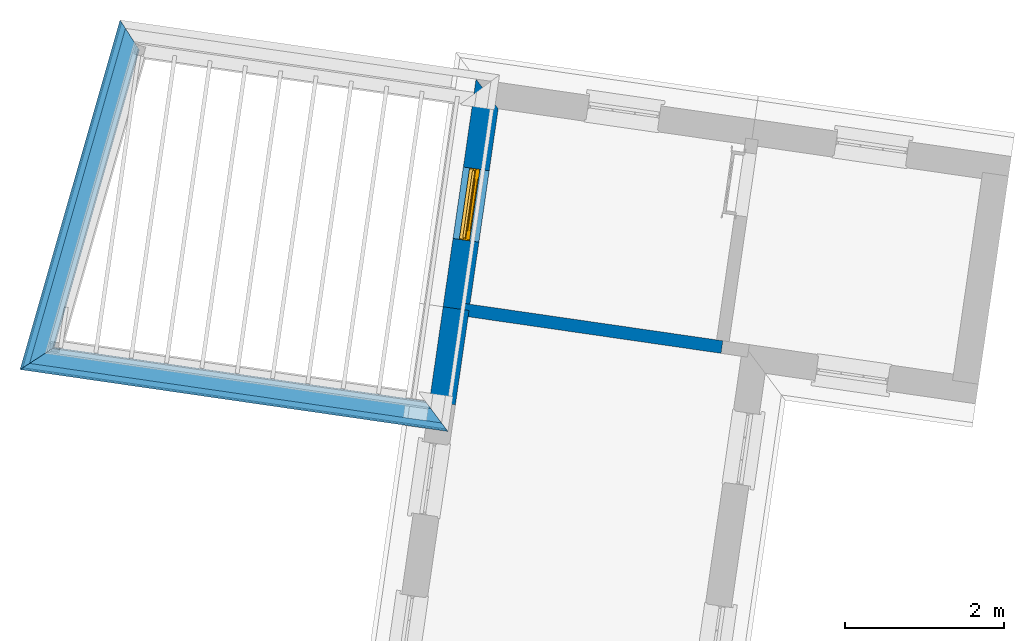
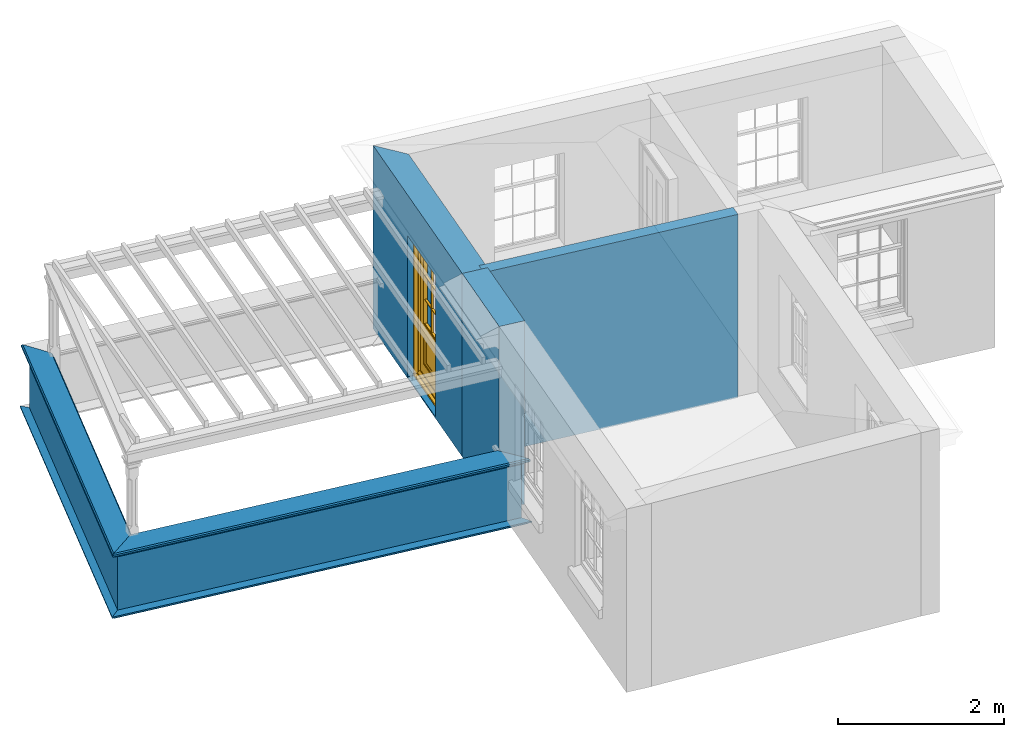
# One storey, part 2 of 4: 9 walls, 1 door, 1 opening.
"""IFC4 building model written with IfcOpenShell, lengths in metres."""

from ifc_helpers import new_model, si_unit, frame, origin, origin_with_axes, place, context, subcontext, project, spatial, polyline, outline, extrude, clip, halfspace, faceted_brep, source, transform, mapped, material, layer, layer_set, layer_usage, material_profile, profile_set, profile_usage, type_object, type_shapes, element, fill, save


model = new_model("IFC4")

# Units and contexts
model_context = context("Model", 3, world=origin_with_axes())
body_context = subcontext(model_context, "Body", "Model", "MODEL_VIEW")
ifc_project = project(units=[si_unit("PLANEANGLEUNIT", "RADIAN"), si_unit("MASSUNIT", "GRAM", prefix="KILO"), si_unit("FORCEUNIT", "NEWTON", prefix="KILO"), si_unit("LENGTHUNIT", "METRE"), si_unit("AREAUNIT", "SQUARE_METRE"), si_unit("VOLUMEUNIT", "CUBIC_METRE")], contexts=[model_context, model_context])

# Sites, building, storey
site_1_placement = place(None, origin_with_axes())
site_1 = spatial("IfcSite", under=ifc_project, at=site_1_placement, Name="Tamar")
site_2_placement = place(site_1_placement, origin_with_axes())
site_2 = spatial("IfcSite", under=site_1, at=site_2_placement, Name="Site plot-30", CompositionType="ELEMENT")
building_placement = place(None, origin_with_axes())
building = spatial("IfcBuilding", under=site_2, at=building_placement, Name="Building plot-30", CompositionType="ELEMENT")
storey_placement = place(None, frame((0.0, 0.0, 31.0), z_axis=(0.0, 0.0, 1.0), x_axis=(1.0, 0.0, 0.0)))
storey = spatial("IfcBuildingStorey", under=building, at=storey_placement, Name="plot-30 2", CompositionType="ELEMENT", Elevation=31.0)

# Wall, opening, door
ifc_material_1 = material(Name="Masonry")
ifc_layer_1 = layer(ifc_material_1, 0.33, ventilated=False)
ifc_layer_set_1 = layer_set([ifc_layer_1], Name="exterior_0.08_0.25")
ifc_layer_usage_1 = layer_usage(ifc_layer_set_1, "AXIS2", "POSITIVE", -0.25)
wall_type_1 = type_object("IfcWallType", Name="exterior_0.08_0.25", PredefinedType="SOLIDWALL", material=ifc_layer_set_1)
wall_1_placement = place(storey_placement, frame((286.383321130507, 263.50148224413, 0.0), z_axis=(0.0, 0.0, 1.0), x_axis=(-0.143119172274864, -0.98970546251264, 0.0)))
wall_1 = element("IfcWall", 1, at=wall_1_placement, inside=storey, type_object=wall_type_1, material=ifc_layer_usage_1, Name="exterior", context=body_context, shape_type="SweptSolid", body=[
    extrude(outline(polyline([(0.0800000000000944, 0.0800000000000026), (-0.250000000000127, -0.249999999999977), (2.64939682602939, -0.249999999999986), (2.64939682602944, 0.0800000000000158), (0.0800000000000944, 0.0800000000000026)])), origin_with_axes(), (0.0, 0.0, 1.0), 2.7),
])
opening_placement = place(wall_1_placement, frame((0.869698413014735, 0.0, 0.0199999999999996)))
opening = element("IfcOpeningElement", 2, at=opening_placement, cuts=wall_1, Name="My Opening", ObjectType="Opening", context=body_context, shape_type="SweptSolid", body=[
    extrude(outline(polyline([(0.0, -0.270000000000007), (0.909999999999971, -0.269999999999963), (0.909999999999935, 1.10000000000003), (-3.59712259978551e-14, 1.09999999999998), (0.0, -0.270000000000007)])), origin_with_axes(), (0.0, 0.0, 1.0), 2.08),
])
door_type = type_object("IfcDoorType", Name="door_panelled", OperationType="SINGLE_SWING_LEFT", PredefinedType="NOTDEFINED")
shared_shape = source(origin(), body_context, "Body", "Brep", [
    faceted_brep([(0.545, 0.195, 0.265), (0.745, 0.195, 0.265), (0.745, 0.2, 0.265), (0.545, 0.2, 0.265), (0.745, 0.2, 0.58), (0.545, 0.2, 0.58), (0.545, 0.195, 0.58), (0.515, 0.19, 0.235), (0.775, 0.19, 0.235), (0.745, 0.195, 0.58), (0.515, 0.19, 0.61), (0.515, 0.185, 0.235), (0.775, 0.185, 0.235), (0.775, 0.19, 0.61), (0.515, 0.185, 0.61), (0.785, 0.185, 0.225), (0.505, 0.185, 0.225), (0.775, 0.185, 0.61), (0.505, 0.185, 0.62), (0.785, 0.185, 0.62), (0.505, 0.18, 0.225), (0.785, 0.18, 0.225), (0.505, 0.18, 0.62), (0.785, 0.18, 0.62), (0.883, 0.18, 0.075), (0.898, 0.18, 0.075), (0.405, 0.18, 0.62), (0.405, 0.18, 0.225), (0.027, 0.18, 0.075), (0.785, 0.18, 0.82), (0.125, 0.18, 0.82), (0.405, 0.185, 0.62), (0.405, 0.185, 0.225), (0.898, 0.18, 2.068), (0.027, 0.17, 0.075), (0.883, 0.17, 0.075), (0.125, 0.18, 0.225), (0.012, 0.18, 0.075), (0.785, 0.19, 0.82), (0.125, 0.19, 0.82), (0.125, 0.18, 0.62), (0.125, 0.185, 0.62), (0.395, 0.185, 0.61), (0.395, 0.185, 0.235), (0.125, 0.185, 0.225), (0.785, 0.18, 1.895), (0.027, 0.14, 0.045), (0.883, 0.14, 0.045), (0.558333, 0.19, 0.83), (0.351667, 0.19, 0.83), (0.125, 0.18, 1.895), (0.125, 0.19, 1.895), (0.785, 0.19, 1.895), (0.012, 0.18, 2.068), (0.135, 0.185, 0.61), (0.395, 0.19, 0.61), (0.395, 0.19, 0.235), (0.135, 0.185, 0.235), (0.027, 0.14, 0.027), (0.883, 0.14, 0.027), (0.568333, 0.19, 0.83), (0.558333, 0.22, 0.83), (0.351667, 0.22, 0.83), (0.341667, 0.19, 0.83), (0.135, 0.19, 1.185), (0.135, 0.19, 1.53), (0.775, 0.19, 1.53), (0.775, 0.19, 1.185), (0.135, 0.19, 0.61), (0.365, 0.195, 0.58), (0.365, 0.195, 0.265), (0.135, 0.19, 0.235), (0.568333, 0.19, 1.175), (0.558333, 0.19, 1.175), (0.775, 0.19, 0.83), (0.558333, 0.22, 1.175), (0.785, 0.22, 0.82), (0.125, 0.22, 0.82), (0.351667, 0.22, 1.175), (0.351667, 0.19, 1.175), (0.341667, 0.19, 1.175), (0.135, 0.19, 0.83), (0.135, 0.19, 1.175), (0.135, 0.22, 1.185), (0.135, 0.22, 1.53), (0.135, 0.19, 1.54), (0.351667, 0.19, 1.885), (0.558333, 0.19, 1.885), (0.775, 0.22, 1.53), (0.775, 0.22, 1.185), (0.775, 0.19, 1.175), (0.775, 0.19, 1.54), (0.165, 0.195, 0.58), (0.365, 0.2, 0.58), (0.365, 0.2, 0.265), (0.165, 0.195, 0.265), (0.568333, 0.22, 0.83), (0.568333, 0.22, 1.175), (0.568333, 0.19, 1.185), (0.558333, 0.19, 1.185), (0.775, 0.22, 0.83), (0.785, 0.23, 0.82), (0.125, 0.23, 0.82), (0.341667, 0.22, 0.83), (0.341667, 0.22, 1.175), (0.351667, 0.19, 1.185), (0.341667, 0.19, 1.185), (0.135, 0.22, 0.83), (0.341667, 0.22, 1.185), (0.125, 0.22, 1.895), (0.341667, 0.22, 1.53), (0.341667, 0.19, 1.53), (0.135, 0.19, 1.885), (0.341667, 0.19, 1.54), (0.341667, 0.19, 1.885), (0.558333, 0.22, 1.885), (0.351667, 0.22, 1.885), (0.568333, 0.19, 1.885), (0.785, 0.22, 1.895), (0.568333, 0.22, 1.185), (0.568333, 0.19, 1.53), (0.568333, 0.22, 1.53), (0.568333, 0.19, 1.54), (0.775, 0.19, 1.885), (0.165, 0.2, 0.58), (0.165, 0.2, 0.265), (0.775, 0.22, 1.175), (0.558333, 0.19, 1.53), (0.351667, 0.22, 1.185), (0.558333, 0.22, 1.185), (0.505, 0.23, 0.62), (0.405, 0.23, 0.62), (0.125, 0.23, 1.895), (0.785, 0.23, 1.895), (0.351667, 0.19, 1.53), (0.135, 0.22, 1.175), (0.135, 0.22, 1.54), (0.341667, 0.22, 1.54), (0.135, 0.22, 1.885), (0.351667, 0.19, 1.54), (0.558333, 0.22, 1.54), (0.558333, 0.19, 1.54), (0.351667, 0.22, 1.54), (0.775, 0.22, 1.54), (0.568333, 0.22, 1.54), (0.775, 0.22, 1.885), (0.558333, 0.22, 1.53), (0.405, 0.23, 0.225), (0.505, 0.23, 0.225), (0.125, 0.23, 0.62), (0.785, 0.23, 0.62), (0.012, 0.23, 2.068), (0.898, 0.23, 2.068), (0.351667, 0.22, 1.53), (0.341667, 0.22, 1.885), (0.568333, 0.22, 1.885), (0.405, 0.225, 0.225), (0.405, 0.225, 0.62), (0.505, 0.225, 0.62), (0.505, 0.225, 0.225), (0.898, 0.23, 0.027), (0.012, 0.23, 0.027), (0.125, 0.225, 0.62), (0.785, 0.225, 0.62), (0.395, 0.225, 0.235), (0.395, 0.225, 0.61), (0.125, 0.23, 0.225), (0.125, 0.225, 0.225), (0.515, 0.225, 0.61), (0.515, 0.225, 0.235), (0.785, 0.23, 0.225), (0.785, 0.225, 0.225), (0.135, 0.225, 0.61), (0.775, 0.225, 0.61), (0.135, 0.225, 0.235), (0.395, 0.22, 0.235), (0.395, 0.22, 0.61), (0.515, 0.22, 0.61), (0.515, 0.22, 0.235), (0.775, 0.225, 0.235), (0.135, 0.22, 0.61), (0.775, 0.22, 0.61), (0.135, 0.22, 0.235), (0.365, 0.215, 0.265), (0.365, 0.215, 0.58), (0.545, 0.215, 0.58), (0.545, 0.215, 0.265), (0.775, 0.22, 0.235), (0.165, 0.215, 0.58), (0.745, 0.215, 0.58), (0.165, 0.215, 0.265), (0.365, 0.21, 0.58), (0.365, 0.21, 0.265), (0.545, 0.21, 0.58), (0.545, 0.21, 0.265), (0.745, 0.215, 0.265), (0.165, 0.21, 0.58), (0.745, 0.21, 0.58), (0.165, 0.21, 0.265), (0.745, 0.21, 0.265), (0.885, 0.178, 0.025), (0.025, 0.178, 0.025), (0.025, 0.15, 0.025), (0.885, 0.15, 0.025), (0.9, 0.23, 0.025), (0.01, 0.23, 0.025), (0.9, 0.178, 0.025), (0.91, 0.23, 0.0), (0.0, 0.23, 0.0), (0.01, 0.178, 0.025), (0.9, 0.178, 2.07), (0.9, 0.23, 2.07), (0.885, 0.178, 2.055), (0.91, 0.23, 2.08), (0.01, 0.23, 2.07), (0.0, 0.23, 2.08), (0.01, 0.178, 2.07), (0.025, 0.178, 2.055), (0.0, 0.1, 2.08), (0.91, 0.1, 2.08), (0.01, 0.1, 2.07), (0.9, 0.1, 2.07), (0.01, 0.15, 2.07), (0.9, 0.15, 2.07), (0.0, 0.1, 0.0), (0.91, 0.1, 0.0), (0.01, 0.1, 0.025), (0.9, 0.1, 0.025), (0.01, 0.15, 0.025), (0.025, 0.15, 2.055), (0.9, 0.15, 0.025), (0.885, 0.15, 2.055), (0.898, 0.18, 0.027), (0.012, 0.18, 0.027), (0.883, 0.18, 0.027), (0.027, 0.18, 0.027)], [[[0, 1, 2, 3]], [[2, 4, 5, 3]], [[0, 3, 5, 6]], [[1, 0, 7, 8]], [[9, 4, 2, 1]], [[9, 6, 5, 4]], [[0, 6, 10, 7]], [[8, 7, 11, 12]], [[8, 13, 9, 1]], [[13, 10, 6, 9]], [[7, 10, 14, 11]], [[15, 12, 11, 16]], [[12, 17, 13, 8]], [[17, 14, 10, 13]], [[18, 16, 11, 14]], [[15, 19, 17, 12]], [[15, 16, 20, 21]], [[14, 17, 19, 18]], [[16, 18, 22, 20]], [[21, 23, 19, 15]], [[24, 25, 21, 20]], [[23, 22, 18, 19]], [[20, 22, 26, 27]], [[23, 21, 25]], [[28, 24, 20, 27]], [[22, 23, 29]], [[29, 30, 26, 22]], [[27, 26, 31, 32]], [[23, 25, 33, 29]], [[34, 35, 24, 28]], [[28, 27, 36, 37]], [[38, 39, 30, 29]], [[26, 30, 40]], [[26, 40, 41, 31]], [[42, 43, 32, 31]], [[32, 44, 36, 27]], [[33, 45, 29]], [[46, 47, 35, 34]], [[36, 40, 37]], [[39, 38, 48, 49]], [[50, 30, 39, 51]], [[29, 45, 52, 38]], [[53, 37, 40, 30]], [[44, 41, 40, 36]], [[31, 41, 54, 42]], [[43, 42, 55, 56]], [[57, 44, 32, 43]], [[50, 45, 33, 53]], [[47, 46, 58, 59]], [[60, 48, 38]], [[49, 48, 61, 62]], [[49, 63, 39]], [[50, 53, 30]], [[51, 39, 64, 65]], [[45, 50, 51, 52]], [[66, 67, 38, 52]], [[57, 54, 41, 44]], [[42, 54, 68, 55]], [[56, 55, 69, 70]], [[56, 71, 57, 43]], [[60, 72, 73, 48]], [[60, 38, 74]], [[48, 73, 75, 61]], [[76, 77, 62, 61]], [[62, 78, 79, 49]], [[49, 79, 80, 63]], [[63, 81, 39]], [[82, 64, 39]], [[65, 64, 83, 84]], [[85, 51, 65]], [[52, 51, 86, 87]], [[88, 89, 67, 66]], [[90, 38, 67]], [[91, 66, 52]], [[71, 68, 54, 57]], [[55, 68, 92, 69]], [[69, 93, 94, 70]], [[70, 95, 71, 56]], [[96, 97, 72, 60]], [[73, 72, 98, 99]], [[74, 38, 90]], [[100, 96, 60, 74]], [[75, 73, 79, 78]], [[61, 75, 97, 96]], [[101, 102, 77, 76]], [[77, 103, 62]], [[96, 76, 61]], [[103, 104, 78, 62]], [[80, 79, 105, 106]], [[63, 80, 104, 103]], [[81, 63, 103, 107]], [[81, 82, 39]], [[106, 64, 82, 80]], [[106, 108, 83, 64]], [[84, 83, 77, 109]], [[110, 111, 65, 84]], [[112, 51, 85]], [[113, 85, 65, 111]], [[114, 86, 51]], [[115, 87, 86, 116]], [[117, 52, 87]], [[118, 76, 89, 88]], [[119, 98, 67, 89]], [[120, 121, 88, 66]], [[67, 98, 72, 90]], [[91, 122, 120, 66]], [[91, 52, 123]], [[95, 92, 68, 71]], [[69, 92, 124, 93]], [[94, 93, 124, 125]], [[94, 125, 95, 70]], [[72, 97, 126, 90]], [[127, 99, 98, 120]], [[99, 105, 79, 73]], [[74, 90, 126, 100]], [[96, 100, 76]], [[128, 129, 75, 78]], [[97, 75, 129, 119]], [[130, 131, 102, 101]], [[109, 77, 102, 132]], [[133, 101, 76, 118]], [[77, 107, 103]], [[78, 104, 108, 128]], [[111, 106, 105, 134]], [[104, 80, 82, 135]], [[107, 135, 82, 81]], [[110, 108, 106, 111]], [[104, 135, 83, 108]], [[83, 135, 77]], [[136, 84, 109]], [[110, 84, 136, 137]], [[114, 51, 112]], [[85, 136, 138, 112]], [[113, 137, 136, 85]], [[111, 134, 139, 113]], [[86, 114, 113, 139]], [[140, 141, 87, 115]], [[139, 142, 116, 86]], [[109, 118, 115, 116]], [[117, 123, 52]], [[117, 87, 141, 122]], [[126, 89, 76]], [[143, 118, 88]], [[120, 98, 119, 121]], [[119, 89, 126, 97]], [[144, 143, 88, 121]], [[144, 122, 91, 143]], [[127, 120, 122, 141]], [[143, 91, 123, 145]], [[124, 92, 95, 125]], [[146, 129, 99, 127]], [[99, 129, 128, 105]], [[100, 126, 76]], [[121, 119, 129, 146]], [[147, 131, 130, 148]], [[131, 149, 102]], [[130, 101, 150]], [[102, 151, 132]], [[118, 109, 132, 133]], [[101, 133, 152]], [[107, 77, 135]], [[153, 128, 108, 110]], [[134, 105, 128, 153]], [[109, 138, 136]], [[153, 110, 137, 142]], [[154, 114, 112, 138]], [[137, 113, 114, 154]], [[141, 139, 134, 127]], [[141, 140, 142, 139]], [[144, 140, 115, 155]], [[142, 137, 154, 116]], [[155, 115, 118]], [[116, 154, 109]], [[117, 155, 145, 123]], [[122, 144, 155, 117]], [[143, 145, 118]], [[121, 146, 140, 144]], [[146, 127, 134, 153]], [[156, 157, 131, 147]], [[148, 130, 158, 159]], [[148, 160, 161, 147]], [[157, 162, 149, 131]], [[161, 151, 102, 149]], [[101, 152, 160, 150]], [[163, 158, 130, 150]], [[151, 152, 133, 132]], [[154, 138, 109]], [[142, 140, 146, 153]], [[145, 155, 118]], [[157, 156, 164, 165]], [[147, 166, 167, 156]], [[168, 169, 159, 158]], [[170, 148, 159, 171]], [[148, 170, 160]], [[166, 147, 161]], [[172, 162, 157, 165]], [[166, 149, 162, 167]], [[166, 161, 149]], [[150, 160, 170]], [[163, 173, 168, 158]], [[171, 163, 150, 170]], [[174, 164, 156, 167]], [[175, 176, 165, 164]], [[169, 168, 177, 178]], [[171, 159, 169, 179]], [[167, 162, 172, 174]], [[176, 180, 172, 165]], [[179, 173, 163, 171]], [[181, 177, 168, 173]], [[164, 174, 182, 175]], [[183, 184, 176, 175]], [[178, 177, 185, 186]], [[179, 169, 178, 187]], [[174, 172, 180, 182]], [[184, 188, 180, 176]], [[187, 181, 173, 179]], [[189, 185, 177, 181]], [[175, 182, 190, 183]], [[191, 184, 183, 192]], [[185, 193, 194, 186]], [[187, 178, 186, 195]], [[182, 180, 188, 190]], [[191, 196, 188, 184]], [[195, 189, 181, 187]], [[197, 193, 185, 189]], [[183, 190, 198, 192]], [[198, 196, 191, 192]], [[194, 193, 197, 199]], [[195, 186, 194, 199]], [[188, 196, 198, 190]], [[197, 189, 195, 199]], [[200, 201, 202, 203]], [[201, 200, 204, 205]], [[206, 204, 200]], [[204, 207, 208, 205]], [[209, 201, 205]], [[210, 211, 204, 206]], [[206, 200, 212, 210]], [[211, 213, 207, 204]], [[214, 205, 208, 215]], [[216, 217, 201, 209]], [[205, 214, 216, 209]], [[216, 214, 211, 210]], [[210, 212, 217, 216]], [[214, 215, 213, 211]], [[218, 219, 213, 215]], [[219, 218, 220, 221]], [[221, 220, 222, 223]], [[215, 208, 224, 218]], [[225, 224, 208, 207]], [[224, 226, 220, 218]], [[224, 225, 227, 226]], [[219, 225, 207, 213]], [[228, 222, 220, 226]], [[219, 221, 227, 225]], [[226, 227, 203, 202]], [[202, 229, 222, 228]], [[228, 226, 202]], [[227, 221, 223, 230]], [[230, 203, 227]], [[217, 229, 202, 201]], [[231, 223, 222, 229]], [[230, 223, 231, 203]], [[231, 229, 217, 212]], [[212, 200, 203, 231]], [[33, 152, 151, 53]], [[25, 160, 152, 33]], [[161, 37, 53, 151]], [[232, 160, 25]], [[161, 233, 37]], [[160, 232, 234]], [[24, 234, 232, 25]], [[233, 161, 235]], [[37, 233, 235, 28]], [[161, 160, 234, 235]], [[35, 47, 234, 24]], [[28, 235, 46, 34]], [[58, 235, 234, 59]], [[59, 234, 47]], [[58, 46, 235]]]),
])
type_shapes(door_type, [shared_shape])
door_placement = place(storey_placement, frame((285.991630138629, 262.679379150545, 0.0199999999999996), z_axis=(0.0, 0.0, 1.0), x_axis=(-0.130238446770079, -0.900631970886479, 0.0)))
door = element("IfcDoor", 3, at=door_placement, inside=storey, type_object=door_type, Name="circulation sahn door", OverallHeight=2.08, OverallWidth=0.91, context=body_context, shape_type="MappedRepresentation", body=[
    mapped(shared_shape, transform((0.0, 0.0, 0.0), scale=1.0)),
])
fill(opening, door)

# Walls
wall_2_placement = place(storey_placement, frame((286.004141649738, 260.879359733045, 0.0), z_axis=(0.0, 0.0, 1.0), x_axis=(-0.14311917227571, -0.989705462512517, 0.0)))
element("IfcWall", 4, at=wall_2_placement, inside=storey, type_object=wall_type_1, material=ifc_layer_usage_1, Name="exterior", context=body_context, shape_type="SweptSolid", body=[
    extrude(outline(polyline([(-4.64841906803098e-14, 0.0800000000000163), (1.86421753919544e-13, -0.249999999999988), (1.202578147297, -0.250000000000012), (1.20257814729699, 0.0800000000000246), (-4.64841906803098e-14, 0.0800000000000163)])), origin_with_axes(), (0.0, 0.0, 1.0), 2.7),
])
ifc_material_2 = material(Name="Masonry")
ifc_layer_2 = layer(ifc_material_2, 0.16, ventilated=False)
ifc_layer_set_2 = layer_set([ifc_layer_2], Name="interior_0.08_0.08")
ifc_layer_usage_2 = layer_usage(ifc_layer_set_2, "AXIS2", "POSITIVE", -0.08)
wall_type_2 = type_object("IfcWallType", Name="interior_0.08_0.08", PredefinedType="SOLIDWALL", material=ifc_layer_set_2)
wall_3_placement = place(storey_placement, frame((289.271176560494, 260.406920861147, 0.0), z_axis=(0.0, 0.0, 1.0), x_axis=(-0.989705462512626, 0.143119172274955, 0.0)))
element("IfcWall", 5, at=wall_3_placement, inside=storey, type_object=wall_type_2, material=ifc_layer_usage_2, Name="interior", context=body_context, shape_type="SweptSolid", body=[
    extrude(outline(polyline([(1.45710246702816e-14, 0.0800000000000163), (-1.45257003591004e-14, -0.0800000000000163), (3.30101735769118, -0.0800000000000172), (3.3010173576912, 0.0800000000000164), (1.45710246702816e-14, 0.0800000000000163)])), origin_with_axes(), (0.0, 0.0, 1.0), 2.7),
])
ifc_material_profile_1 = material_profile(None, outline(polyline([(0.25, 0.0), (0.25, 0.795), (0.09, 0.795), (0.09, 0.02), (-0.08, 0.02), (-0.08, 0.0), (0.25, 0.0)])))
ifc_profile_set_1 = profile_set([ifc_material_profile_1])
ifc_profile_usage_1 = profile_usage(ifc_profile_set_1)
wall_type_3 = type_object("IfcWallType", Name="parapet_0", PredefinedType="PARAPET", material=ifc_profile_set_1)
wall_4_placement = place(storey_placement, frame((280.588219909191, 259.446259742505, 0.0), z_axis=(0.275095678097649, 0.961416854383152, 0.0), x_axis=(-0.961416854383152, 0.275095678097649, 0.0)))
element("IfcWall", 6, at=wall_4_placement, inside=storey, type_object=wall_type_3, material=ifc_profile_usage_1, Name="parapet_0", context=body_context, shape_type="Clipping", body=[
    clip(clip(extrude(outline(polyline([(0.25, 0.0), (0.25, 0.795), (0.09, 0.795), (0.09, 0.02), (-0.08, 0.02), (-0.08, 0.0), (0.25, 0.0)])), origin_with_axes(), (0.0, 0.0, 1.0), 5.88738525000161), halfspace(frame((0.0, 0.0, 4.88738525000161), z_axis=(0.657774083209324, 0.0, -0.753215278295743), x_axis=(0.0, 1.0, 0.0)), True)), halfspace(frame((0.0, 0.0, 1.0), z_axis=(-0.753215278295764, 0.0, -0.6577740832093), x_axis=(0.0, 1.0, 0.0)), False)),
])
ifc_profile_usage_2 = profile_usage(ifc_profile_set_1)
wall_5_placement = place(storey_placement, frame((286.514926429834, 259.590409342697, 0.0), z_axis=(-0.989705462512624, 0.143119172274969, 0.0), x_axis=(-0.143119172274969, -0.989705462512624, 0.0)))
element("IfcWall", 7, at=wall_5_placement, inside=storey, type_object=wall_type_3, material=ifc_profile_usage_2, Name="parapet_0", context=body_context, shape_type="Clipping", body=[
    clip(clip(extrude(outline(polyline([(0.25, 0.0), (0.25, 0.795), (0.09, 0.795), (0.09, 0.02), (-0.08, 0.02), (-0.08, 0.0), (0.25, 0.0)])), origin_with_axes(), (0.0, 0.0, 1.0), 6.71039673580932), halfspace(frame((0.0, 0.0, 5.71039673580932), z_axis=(0.753215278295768, 0.0, -0.657774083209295), x_axis=(0.0, 1.0, 0.0)), True)), halfspace(frame((0.0, 0.0, 1.0), z_axis=(-0.707106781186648, 0.0, -0.707106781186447), x_axis=(0.0, 1.0, 0.0)), False)),
])
ifc_material_profile_2 = material_profile(None, outline(polyline([(0.265, 0.795), (0.268, 0.807), (0.274, 0.816), (0.283, 0.822), (0.295, 0.825), (0.295, 0.84), (0.305, 0.84), (0.317, 0.842), (0.326, 0.849), (0.333, 0.858), (0.335, 0.87), (0.333, 0.882), (0.326, 0.891), (0.317, 0.898), (0.305, 0.9), (0.035, 0.9), (0.023, 0.898), (0.014, 0.891), (0.007, 0.882), (0.005, 0.87), (0.007, 0.858), (0.014, 0.849), (0.023, 0.842), (0.035, 0.84), (0.045, 0.84), (0.045, 0.825), (0.057, 0.822), (0.066, 0.816), (0.072, 0.807), (0.075, 0.795), (0.265, 0.795)])))
ifc_profile_set_2 = profile_set([ifc_material_profile_2])
ifc_profile_usage_3 = profile_usage(ifc_profile_set_2)
wall_type_4 = type_object("IfcWallType", Name="parapet_1", PredefinedType="PARAPET", material=ifc_profile_set_2)
wall_6_placement = place(storey_placement, frame((280.588219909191, 259.446259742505, 0.0), z_axis=(0.275095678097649, 0.961416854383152, 0.0), x_axis=(-0.961416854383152, 0.275095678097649, 0.0)))
element("IfcWall", 8, at=wall_6_placement, inside=storey, type_object=wall_type_4, material=ifc_profile_usage_3, Name="parapet_1", context=body_context, shape_type="Clipping", body=[
    clip(clip(extrude(outline(polyline([(0.265, 0.795), (0.268, 0.807), (0.274, 0.816), (0.283, 0.822), (0.295, 0.825), (0.295, 0.84), (0.305, 0.84), (0.317, 0.842), (0.326, 0.849), (0.333, 0.858), (0.335, 0.87), (0.333, 0.882), (0.326, 0.891), (0.317, 0.898), (0.305, 0.9), (0.035, 0.9), (0.023, 0.898), (0.014, 0.891), (0.007, 0.882), (0.005, 0.87), (0.007, 0.858), (0.014, 0.849), (0.023, 0.842), (0.035, 0.84), (0.045, 0.84), (0.045, 0.825), (0.057, 0.822), (0.066, 0.816), (0.072, 0.807), (0.075, 0.795), (0.265, 0.795)])), origin_with_axes(), (0.0, 0.0, 1.0), 5.88738525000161), halfspace(frame((0.0, 0.0, 4.88738525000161), z_axis=(0.657774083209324, 0.0, -0.753215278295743), x_axis=(0.0, 1.0, 0.0)), True)), halfspace(frame((0.0, 0.0, 1.0), z_axis=(-0.753215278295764, 0.0, -0.6577740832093), x_axis=(0.0, 1.0, 0.0)), False)),
])
ifc_profile_usage_4 = profile_usage(ifc_profile_set_2)
wall_7_placement = place(storey_placement, frame((286.514926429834, 259.590409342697, 0.0), z_axis=(-0.989705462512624, 0.143119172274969, 0.0), x_axis=(-0.143119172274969, -0.989705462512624, 0.0)))
element("IfcWall", 9, at=wall_7_placement, inside=storey, type_object=wall_type_4, material=ifc_profile_usage_4, Name="parapet_1", context=body_context, shape_type="Clipping", body=[
    clip(clip(extrude(outline(polyline([(0.265, 0.795), (0.268, 0.807), (0.274, 0.816), (0.283, 0.822), (0.295, 0.825), (0.295, 0.84), (0.305, 0.84), (0.317, 0.842), (0.326, 0.849), (0.333, 0.858), (0.335, 0.87), (0.333, 0.882), (0.326, 0.891), (0.317, 0.898), (0.305, 0.9), (0.035, 0.9), (0.023, 0.898), (0.014, 0.891), (0.007, 0.882), (0.005, 0.87), (0.007, 0.858), (0.014, 0.849), (0.023, 0.842), (0.035, 0.84), (0.045, 0.84), (0.045, 0.825), (0.057, 0.822), (0.066, 0.816), (0.072, 0.807), (0.075, 0.795), (0.265, 0.795)])), origin_with_axes(), (0.0, 0.0, 1.0), 6.71039673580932), halfspace(frame((0.0, 0.0, 5.71039673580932), z_axis=(0.753215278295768, 0.0, -0.657774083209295), x_axis=(0.0, 1.0, 0.0)), True)), halfspace(frame((0.0, 0.0, 1.0), z_axis=(-0.707106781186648, 0.0, -0.707106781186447), x_axis=(0.0, 1.0, 0.0)), False)),
])
ifc_material_profile_3 = material_profile(None, outline(polyline([(0.25, -0.1), (0.265, -0.1), (0.265, -0.085), (0.278, -0.084), (0.289, -0.081), (0.301, -0.074), (0.309, -0.065), (0.315, -0.055), (0.324, -0.044), (0.334, -0.038), (0.345, -0.035), (0.345, -0.015), (0.25, 0.0), (0.25, -0.1)])))
ifc_profile_set_3 = profile_set([ifc_material_profile_3])
ifc_profile_usage_5 = profile_usage(ifc_profile_set_3)
wall_type_5 = type_object("IfcWallType", Name="parapet_2", PredefinedType="PARAPET", material=ifc_profile_set_3)
wall_8_placement = place(storey_placement, frame((280.588219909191, 259.446259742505, 0.0), z_axis=(0.275095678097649, 0.961416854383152, 0.0), x_axis=(-0.961416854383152, 0.275095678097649, 0.0)))
element("IfcWall", 10, at=wall_8_placement, inside=storey, type_object=wall_type_5, material=ifc_profile_usage_5, Name="parapet_2", context=body_context, shape_type="Clipping", body=[
    clip(clip(extrude(outline(polyline([(0.25, -0.1), (0.265, -0.1), (0.265, -0.085), (0.278, -0.084), (0.289, -0.081), (0.301, -0.074), (0.309, -0.065), (0.315, -0.055), (0.324, -0.044), (0.334, -0.038), (0.345, -0.035), (0.345, -0.015), (0.25, 0.0), (0.25, -0.1)])), origin_with_axes(), (0.0, 0.0, 1.0), 5.88738525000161), halfspace(frame((0.0, 0.0, 4.88738525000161), z_axis=(0.657774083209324, 0.0, -0.753215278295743), x_axis=(0.0, 1.0, 0.0)), True)), halfspace(frame((0.0, 0.0, 1.0), z_axis=(-0.753215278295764, 0.0, -0.6577740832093), x_axis=(0.0, 1.0, 0.0)), False)),
])
ifc_profile_usage_6 = profile_usage(ifc_profile_set_3)
wall_9_placement = place(storey_placement, frame((286.514926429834, 259.590409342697, 0.0), z_axis=(-0.989705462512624, 0.143119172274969, 0.0), x_axis=(-0.143119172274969, -0.989705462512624, 0.0)))
element("IfcWall", 11, at=wall_9_placement, inside=storey, type_object=wall_type_5, material=ifc_profile_usage_6, Name="parapet_2", context=body_context, shape_type="Clipping", body=[
    clip(clip(extrude(outline(polyline([(0.25, -0.1), (0.265, -0.1), (0.265, -0.085), (0.278, -0.084), (0.289, -0.081), (0.301, -0.074), (0.309, -0.065), (0.315, -0.055), (0.324, -0.044), (0.334, -0.038), (0.345, -0.035), (0.345, -0.015), (0.25, 0.0), (0.25, -0.1)])), origin_with_axes(), (0.0, 0.0, 1.0), 6.71039673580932), halfspace(frame((0.0, 0.0, 5.71039673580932), z_axis=(0.753215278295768, 0.0, -0.657774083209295), x_axis=(0.0, 1.0, 0.0)), True)), halfspace(frame((0.0, 0.0, 1.0), z_axis=(-0.707106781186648, 0.0, -0.707106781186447), x_axis=(0.0, 1.0, 0.0)), False)),
])

save(model, "model.ifc")
